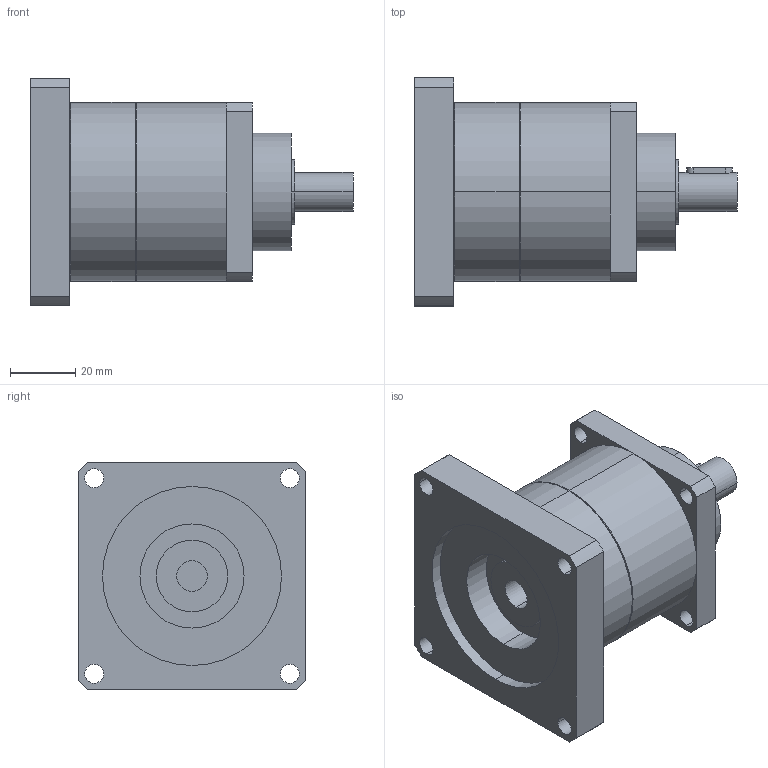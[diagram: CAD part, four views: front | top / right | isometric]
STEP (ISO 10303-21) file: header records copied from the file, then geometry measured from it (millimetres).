
FILE_DESCRIPTION(('CoCreate Modeling STEP Export'),'2;1');
FILE_NAME('GPT55_ig-3-4-5-7-10_12_B5A_9.52_P25.stp','2014-08-25T14:35:12',(''),(''),'CoCreate Modeling STEP processor for AP214 (Solid Model)','CoCreate Modeling 16.00C 25-Feb-2009 (C) Parametric Technology GmbH','');
FILE_SCHEMA(('AUTOMOTIVE_DESIGN { 1 0 10303 214 1 1 1 1 }'));
Length unit declared in the file: millimetre
Products named in the file (2): GPT55_ig-3-4-5-7-10_12_B5A_9.52_P25
Assembly tree (1 placements, depth 2):
  GPT55_ig-3-4-5-7-10_12_B5A_9.52_P25
    GPT55_ig-3-4-5-7-10_12_B5A_9.52_P25
Bounding box: 99 x 70 x 70 mm (x, y, z)
Volume: 193560 mm3; surface area: 30125.1 mm2
Topology: 1 solids, 1 shells, 77 faces, 204 edges, 139 vertices
Faces by surface type: cylinder 46, plane 27, cone 4
Entity records: 2515 total; most frequent: CARTESIAN_POINT 710, ORIENTED_EDGE 408, DIRECTION 318, EDGE_CURVE 204, VERTEX_POINT 139, AXIS2_PLACEMENT_3D 117, EDGE_LOOP 103, VECTOR 84
